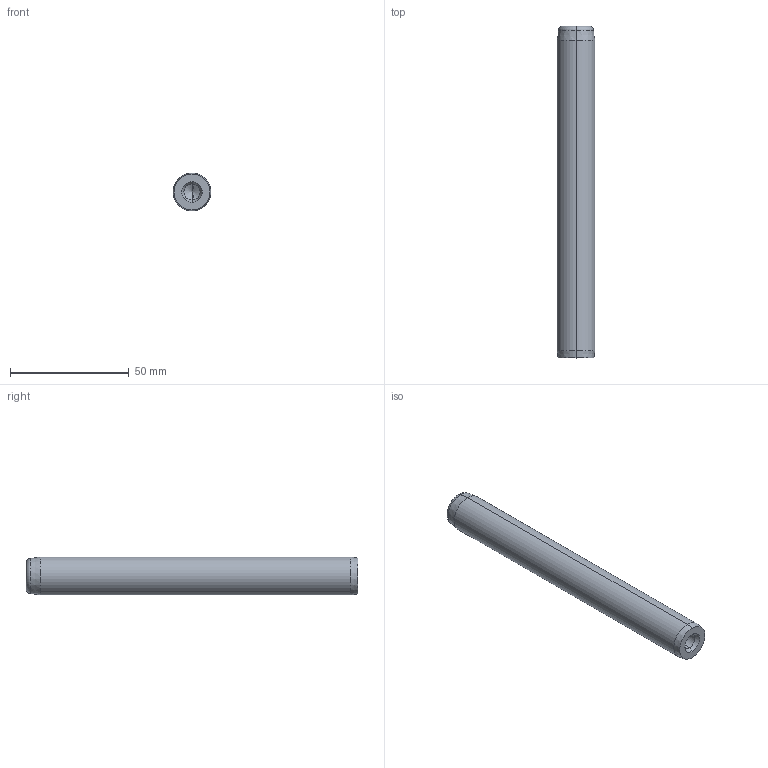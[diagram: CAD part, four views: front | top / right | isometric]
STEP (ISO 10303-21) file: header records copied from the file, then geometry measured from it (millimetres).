
FILE_DESCRIPTION (( 'STEP AP214' ), '1' );
FILE_NAME ('D14_16140.STEP', '2011-12-24T22:44:05', ( 'Dell' ), ( '' ), 'SwSTEP 2.0', 'SolidWorks 2010', '' );
FILE_SCHEMA (( 'AUTOMOTIVE_DESIGN' ));
Length unit declared in the file: metre
Products named in the file (1): D14_16140
Bounding box: 16 x 140 x 16 mm (x, y, z)
Volume: 26002.8 mm3; surface area: 8433.4 mm2
Topology: 1 solids, 1 shells, 22 faces, 46 edges, 24 vertices
Faces by surface type: cone 12, cylinder 6, torus 2, plane 2
Entity records: 588 total; most frequent: DIRECTION 112, CARTESIAN_POINT 89, ORIENTED_EDGE 84, AXIS2_PLACEMENT_3D 47, EDGE_CURVE 42, VERTEX_POINT 24, EDGE_LOOP 24, CIRCLE 24
